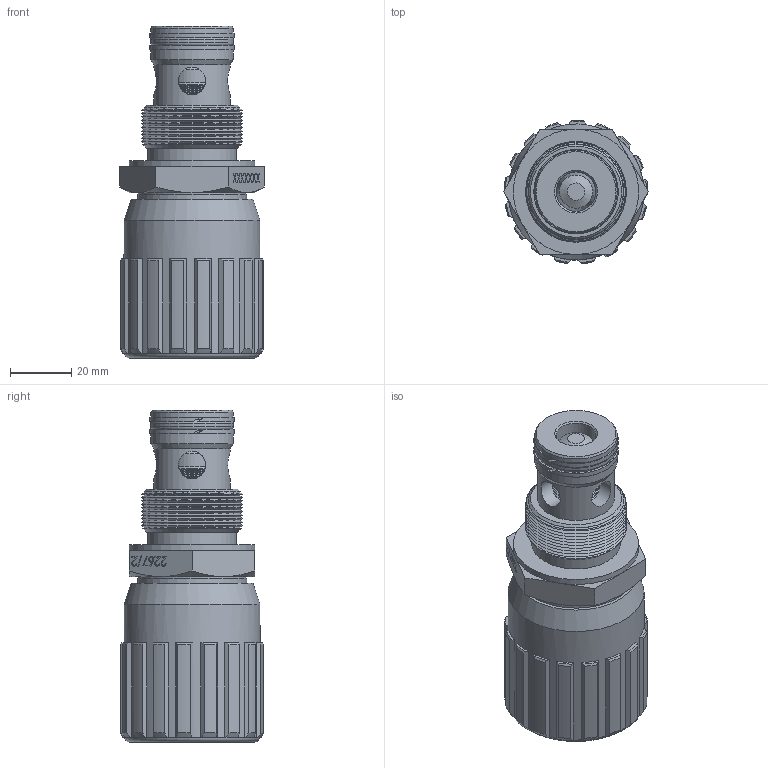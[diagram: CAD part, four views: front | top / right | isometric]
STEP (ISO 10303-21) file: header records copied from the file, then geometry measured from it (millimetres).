
FILE_DESCRIPTION (( 'STEP AP214' ), '1' );
FILE_NAME ('2267-2-34 VOLANTINO ALLUMINIO.STEP', '2025-10-30T14:43:11', ( '' ), ( '' ), 'SwSTEP 2.0', 'SolidWorks 2025', '' );
FILE_SCHEMA (( 'AUTOMOTIVE_DESIGN' ));
Length unit declared in the file: millimetre
Products named in the file (13): CAPPUCCIO VOLANTINO 257-2.007.00.1-34_Tipo34; SPILLO DI REGOLAZIONE 2267-2.002.00-34; ANELLO DI FERMO 257-1.003.00-34; VITE TESTA BOMBATA 2257-2.006.00-34; DISCO FASCETTA 257-1.004.00-34; ANELLO ANTI ESTRUSIONE 267-2.022.00-34; BK 115; OR 130_OR2012; GRANO DI BLOCCAGGIO M5x8 INOX_Tipo18; VOLANTINO DI MANOVRA 257-2.005.00.0-34_Tipo34; 2267-2-34 VOLANTINO ALLUMINIO; OR 115; CORPO CARTUCCIA FILETTATA 2267-2.101.00-34
Assembly tree (13 placements, depth 2):
  2267-2-34 VOLANTINO ALLUMINIO
    CORPO CARTUCCIA FILETTATA 2267-2.101.00-34
    SPILLO DI REGOLAZIONE 2267-2.002.00-34
    BK 115
    OR 115
    CAPPUCCIO VOLANTINO 257-2.007.00.1-34_Tipo34
    VOLANTINO DI MANOVRA 257-2.005.00.0-34_Tipo34
    GRANO DI BLOCCAGGIO M5x8 INOX_Tipo18
    OR 130_OR2012
    VITE TESTA BOMBATA 2257-2.006.00-34
    ANELLO ANTI ESTRUSIONE 267-2.022.00-34  x2
    DISCO FASCETTA 257-1.004.00-34
    ANELLO DI FERMO 257-1.003.00-34
Bounding box: 47.34 x 46.93 x 108.6 mm (x, y, z)
Volume: 99779.1 mm3; surface area: 51671.1 mm2
Topology: 13 solids, 13 shells, 1060 faces, 2612 edges, 1640 vertices
Faces by surface type: plane 525, cone 352, cylinder 109, bspline 57, torus 16, sphere 1
Full cylindrical faces by diameter (mm): 2.5 x1, 4.2 x1, 5 x20, 8.8 x1, 9 x4, 11 x1, 12.4 x1, 13 x2, 14.4 x1, 14.5 x1, 15 x2, 16 x1, 17 x3, 18 x1, 19.1 x1, 22.35 x2, 25 x1, 27 x3, 28 x1, 29 x1, 29.5 x1, 35 x1, 35.1 x1, 35.8 x1, 41 x1, 44.5 x1
Entity records: 32612 total; most frequent: CARTESIAN_POINT 9393, DIRECTION 4570, ORIENTED_EDGE 4326, EDGE_CURVE 2163, AXIS2_PLACEMENT_3D 1638, VERTEX_POINT 1560, EDGE_LOOP 1499, VECTOR 1294
